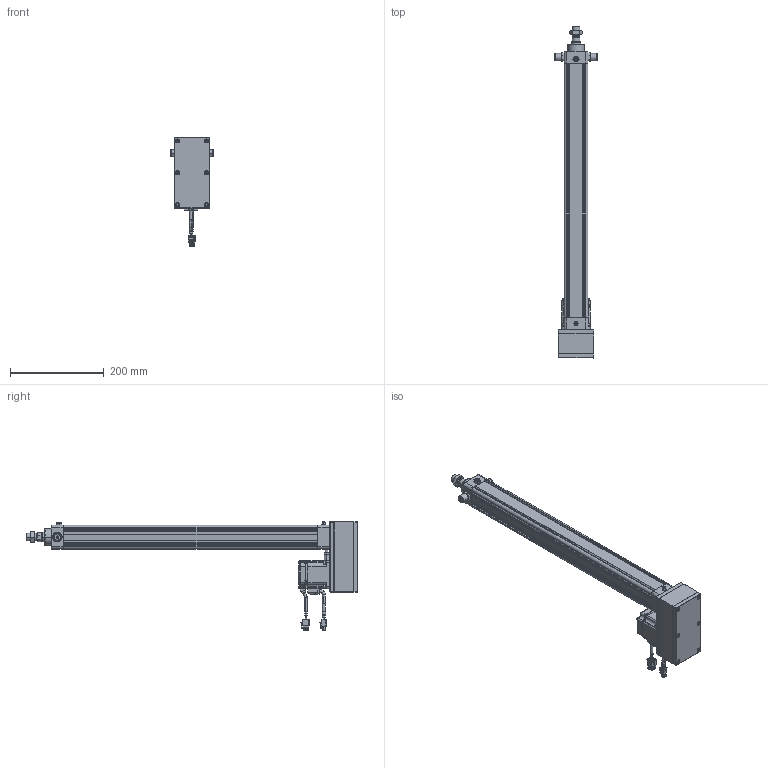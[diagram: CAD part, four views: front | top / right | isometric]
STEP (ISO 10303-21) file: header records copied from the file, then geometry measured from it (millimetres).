
FILE_DESCRIPTION((''),'2;1');
FILE_NAME('HE40-D-100_ASM','2020-05-26T',('ASUS20200'),(''),'CREO PARAMETRIC BY PTC INC, 2014190','CREO PARAMETRIC BY PTC INC, 2014190','');
FILE_SCHEMA(('CONFIG_CONTROL_DESIGN'));
Products named in the file (33): HE40-D-P-001-X1; HE40-D-P-002-X1; HE40-D-P-003-X1; 6200ZZ; SLM-01; YZ-M6X1; JDB202820; HE40-P-010-X1-200W; _MHMF022L1A2; _CABLE_MOTOR_BOTTOM_03; _CABLE_MOTOR_TOP_03; _MOTOR_CONNECTOR_2; _CABLE_BRAKE_BOTTOM_03; _CABLE_BRAKE_TOP_03; _MHMF_CONNECTOR_9_PIN_A6; MHMF022L1A2M2_1_ASM; MHMF022L1A2M2_ASM; JX5X5X20; TD-5; M5X20; LM-M6X1; M6X25; LM-M6-15; M6; HE40-P-012-X2; HE40-P-014-X1; M4X65; HE40-TC; HE40-D-P-005-X1; HE40-D-P-004-X1; HE40-D-P-008-X1; LGLM-M6-22; HE40-D-100_ASM
Assembly tree (50 placements, depth 4):
  HE40-D-100_ASM
    HE40-D-P-001-X1
    HE40-D-P-002-X1
    HE40-D-P-003-X1
    6200ZZ
    SLM-01
    YZ-M6X1
    JDB202820
    HE40-P-010-X1-200W
    MHMF022L1A2M2_ASM
      MHMF022L1A2M2_1_ASM
        _MHMF022L1A2
        _CABLE_MOTOR_BOTTOM_03
        _CABLE_MOTOR_TOP_03
        _MOTOR_CONNECTOR_2
        _CABLE_BRAKE_BOTTOM_03
        _CABLE_BRAKE_TOP_03
        _MHMF_CONNECTOR_9_PIN_A6
    JX5X5X20
    TD-5  x4
    M5X20  x4
    LM-M6X1  x4
    M6X25
    LM-M6-15
    M6
    HE40-P-012-X2
    HE40-P-014-X1
    M4X65  x6
    HE40-TC  x2
    HE40-D-P-005-X1
    HE40-D-P-004-X1
    HE40-D-P-008-X1
    LGLM-M6-22  x4
Bounding box: 91 x 707.5 x 232.7 mm (x, y, z)
Volume: 1245741.7 mm3; surface area: 479878.5 mm2
Topology: 48 solids, 77 shells, 2895 faces, 6922 edges, 4267 vertices
Faces by surface type: plane 1228, cylinder 795, cone 692, torus 142, sphere 34, bspline 4
Entity records: 74910 total; most frequent: CARTESIAN_POINT 14584, DIRECTION 13161, ORIENTED_EDGE 11876, EDGE_CURVE 5996, AXIS2_PLACEMENT_3D 4901, VERTEX_POINT 3733, VECTOR 3359, LINE 3359
